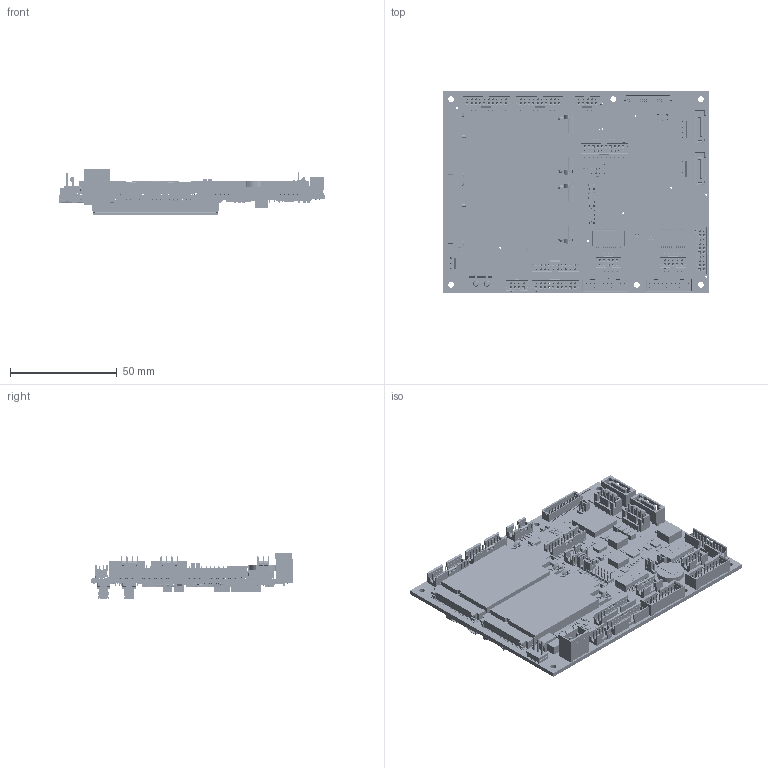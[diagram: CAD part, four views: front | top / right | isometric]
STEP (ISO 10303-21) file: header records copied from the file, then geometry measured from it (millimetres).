
FILE_DESCRIPTION (( 'STEP AP214' ), '1' );
FILE_NAME ('CC472-2_STEP.STEP', '2024-07-18T16:08:52', ( '' ), ( '' ), 'SwSTEP 2.0', 'SolidWorks 2024', '' );
FILE_SCHEMA (( 'AUTOMOTIVE_DESIGN' ));
Length unit declared in the file: millimetre
Products named in the file (831): R111.step; 98424g5210lf.step; 790347392.step; R146B.step; C115A.step; R100B.step; 790348800.step; E1.step; R127.step; R84.step; R39.step; C63.step; L9.step; 790346752.step; C121B.step; 871115360.step; 871118304.step; U23.step; R74.step; RA9.step; C33.step; R138A.step; R8B.step; C177A.step; U7.step; R155A.step; R71.step; P24A.step; R58.step; R78.step; C125A.step; Extruded-0.step; C68.step; 790345856.step; R88.step; Board-87.step; Extruded-67.step; F10.step; Extruded-26.step; R154A.step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
Assembly tree (2319 placements, depth 7):
  CC472-2_STEP
    CCG012.step
      C189B.step
        871117408.step
          Extruded.step
        871117536.step  x2
          Extruded-0.step
      C189A.step
        790356480.step
          Extruded-1.step
        790355072.step  x2
          Extruded-2.step
      C8A.step
        790352768.step  x2
          Extruded-3.step
        790353408.step
          Extruded-4.step
      R140.step
        790352768.step  x2
          Extruded-3.step
        790353408.step
          Extruded-4.step
      R139.step
        790352768.step  x2
          Extruded-3.step
        790353408.step
          Extruded-4.step
      RA10A.step
        790348928.step
          Extruded-5.step
      R102B.step
        790354688.step
          Extruded-6.step
        790353664.step  x2
          Extruded-7.step
      R102A.step
        790354688.step
          Extruded-6.step
        790353664.step  x2
          Extruded-7.step
      C119A.step
        790354688.step
          Extruded-6.step
        790353664.step  x2
          Extruded-7.step
      C118A.step
        790354688.step
          Extruded-6.step
        790353664.step  x2
          Extruded-7.step
      R101B.step
        790352768.step  x2
          Extruded-3.step
        790353408.step
          Extruded-4.step
      R101A.step
        790352768.step  x2
          Extruded-3.step
        790353408.step
          Extruded-4.step
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Bounding box: 125 x 95 x 21.48 mm (x, y, z)
Volume: 55039.8 mm3; surface area: 89112.8 mm2
Topology: 1633 solids, 1638 shells, 31735 faces, 80174 edges, 51939 vertices
Faces by surface type: plane 28579, cylinder 2940, cone 140, bspline 74, torus 2
Entity records: 454959 total; most frequent: CARTESIAN_POINT 79469, ORIENTED_EDGE 73750, DIRECTION 72812, EDGE_CURVE 36875, VECTOR 33068, LINE 33068, VERTEX_POINT 23933, AXIS2_PLACEMENT_3D 19872
